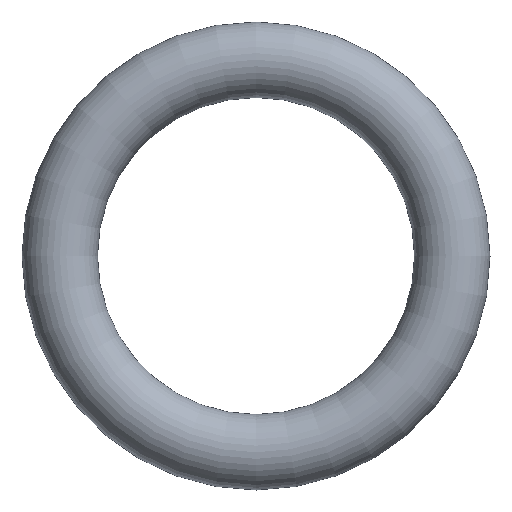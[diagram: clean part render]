
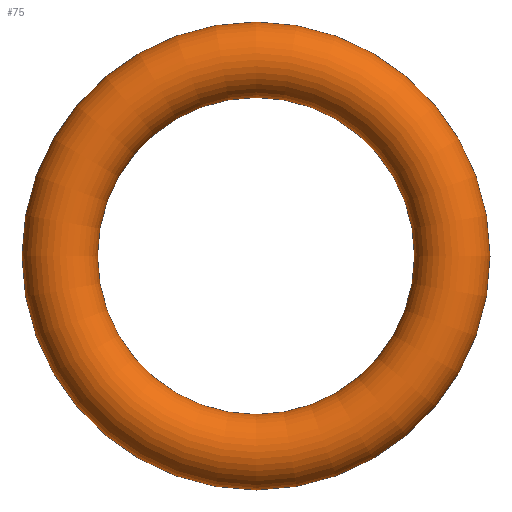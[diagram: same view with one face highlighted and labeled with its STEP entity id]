
A CAD part, front view. The second image highlights one B-rep face of the part: STEP entity #75.
In plain terms, the highlighted toroidal (fillet/blend) face has major radius 6.5 mm and minor radius 1.25 mm.
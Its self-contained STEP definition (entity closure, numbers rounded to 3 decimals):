
#75 = ADVANCED_FACE( '', ( #77 ), #78, .T. );
#77 = FACE_BOUND( '', #79, .T. );
#78 = TOROIDAL_SURFACE( '', #80, 6.5, 1.25 );
#79 = VERTEX_LOOP( '', #81 );
#80 = AXIS2_PLACEMENT_3D( '', #82, #83, #84 );
#81 = VERTEX_POINT( '', #85 );
#82 = CARTESIAN_POINT( '', ( 0., 0., 0. ) );
#83 = DIRECTION( '', ( 0., -1., 0. ) );
#84 = DIRECTION( '', ( 0., 0., -1. ) );
#85 = CARTESIAN_POINT( '', ( 0., 0., -7.75 ) );
